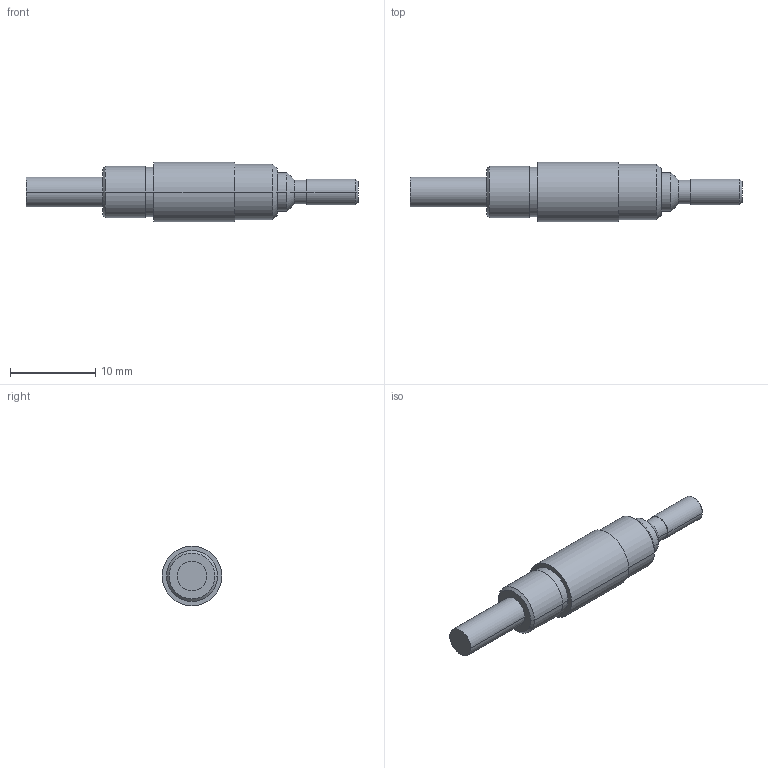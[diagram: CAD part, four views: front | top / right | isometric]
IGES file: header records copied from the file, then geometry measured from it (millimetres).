
Start section: Elysium IGES Interface
Global section: file name: 68HR:\01_商品設計部\01_MK外ﾃｰﾏ(U)\15_MH_3D\IGESﾌｧｲﾙ\04AZA160_AS-6.5.igs; native system: Creo Elements/Direct Modeling 18.1B  29-Sep-2012; preprocessor: Creo Element/Direct IGES_3D V2.2; author: Unknown; organization: Unknown; date: 20140623.150258; units: millimetre
Bounding box: 39 x 7 x 7 mm (x, y, z)
Volume: 862.8 mm3; surface area: 682.8 mm2
Topology: 1 solids, 1 shells, 32 faces, 62 edges, 38 vertices
Faces by surface type: bspline 32
